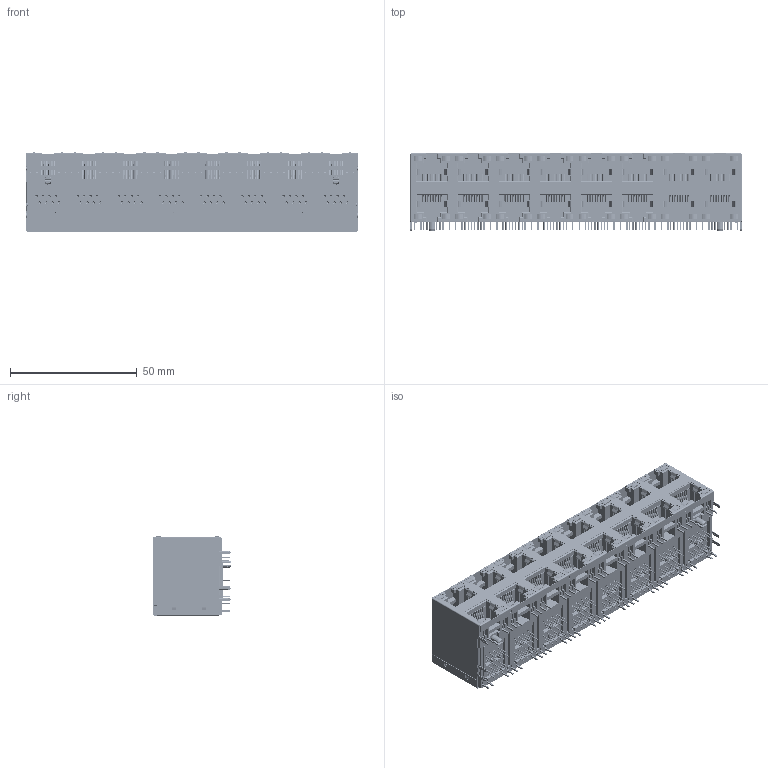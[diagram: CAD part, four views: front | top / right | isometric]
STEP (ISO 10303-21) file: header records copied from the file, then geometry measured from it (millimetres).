
FILE_DESCRIPTION((''),'2;1');
FILE_NAME('ASM0001_ASM','2024-09-06T14:53:06',('HQW'),(''),'CREO PARAMETRIC BY PTC INC, 2024153','CREO PARAMETRIC BY PTC INC, 2024153','');
FILE_SCHEMA(('CONFIG_CONTROL_DESIGN','GEOMETRIC_VALIDATION_PROPERTIES_MIM'));
Products named in the file (13): 5921-LED-2X8-SK; LED000; 5921-LED-2X8-HGB; 5921-LED-2XN-XCX1; 5921-LED-2XN-XCX-PIN; 5921-LED-2XN-XCX_ASM; 5921-LED-2XN-DCX2; 5921-LED-2XN-DCX1; 5921-LED-2XN-DCX-PIN; 5921-LED-2XN-DCX_ASM; 5921-LED-2X8-GLB; 5921-LED-2X8-00; ASM0001_ASM
Assembly tree (33 placements, depth 3):
  ASM0001_ASM
    5921-LED-2X8-SK
    LED000  x8
    5921-LED-2X8-HGB
    5921-LED-2XN-XCX_ASM  x8
      5921-LED-2XN-XCX1
      5921-LED-2XN-XCX-PIN
    5921-LED-2XN-DCX_ASM  x8
      5921-LED-2XN-DCX2
      5921-LED-2XN-DCX1
      5921-LED-2XN-DCX-PIN
    5921-LED-2X8-GLB
    5921-LED-2X8-00
Bounding box: 131.15 x 30.48 x 31.29 mm (x, y, z)
Volume: 62005.2 mm3; surface area: 132134.8 mm2
Topology: 188 solids, 188 shells, 11884 faces, 31712 edges, 20000 vertices
Faces by surface type: plane 7976, cylinder 2856, torus 652, cone 388, bspline 12
Entity records: 157390 total; most frequent: CARTESIAN_POINT 28662, ORIENTED_EDGE 27388, DIRECTION 25638, EDGE_CURVE 13694, VECTOR 11586, LINE 11586, VERTEX_POINT 8604, AXIS2_PLACEMENT_3D 7026
